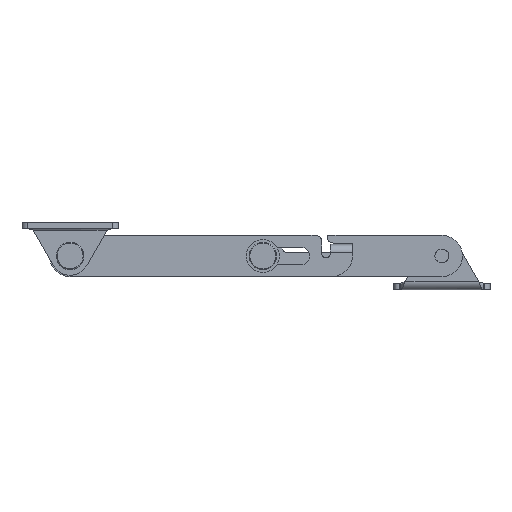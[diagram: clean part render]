
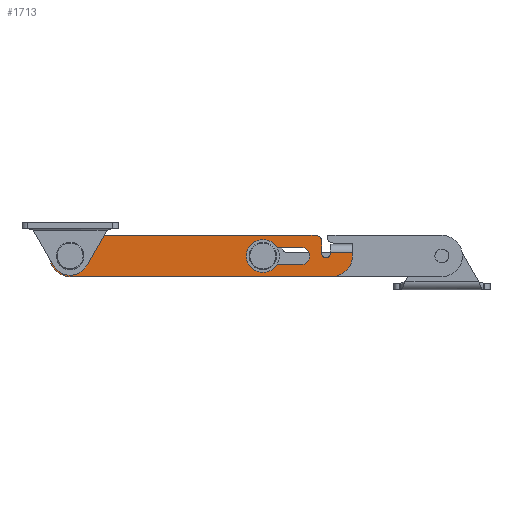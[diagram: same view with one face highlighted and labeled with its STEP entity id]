
A CAD part, top view. The second image highlights one B-rep face of the part: STEP entity #1713.
In plain terms, the highlighted planar face has unit normal (0, 0, 1).
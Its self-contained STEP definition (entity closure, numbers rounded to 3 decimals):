
#32 = EDGE_CURVE ( 'NONE', #183, #2941, #964, .T. ) ;
#132 = DIRECTION ( 'NONE',  ( 0., 1., 0. ) ) ;
#168 = CARTESIAN_POINT ( 'NONE',  ( 0., -68.5, 2.5 ) ) ;
#175 = FACE_BOUND ( 'NONE', #1126, .T. ) ;
#182 = DIRECTION ( 'NONE',  ( 0., 0., 1. ) ) ;
#183 = VERTEX_POINT ( 'NONE', #2148 ) ;
#193 = CARTESIAN_POINT ( 'NONE',  ( 0., -102.5, 2.5 ) ) ;
#214 = EDGE_CURVE ( 'NONE', #1238, #1400, #1574, .T. ) ;
#220 = DIRECTION ( 'NONE',  ( 0., 0., 1. ) ) ;
#235 = EDGE_CURVE ( 'NONE', #1616, #3536, #3561, .T. ) ;
#266 = AXIS2_PLACEMENT_3D ( 'NONE', #168, #1497, #1304 ) ;
#276 = CARTESIAN_POINT ( 'NONE',  ( -3.1, -84., 2.5 ) ) ;
#303 = CARTESIAN_POINT ( 'NONE',  ( 2.5, 0., 2.5 ) ) ;
#311 = LINE ( 'NONE', #2496, #3186 ) ;
#326 = ORIENTED_EDGE ( 'NONE', *, *, #2132, .F. ) ;
#339 = LINE ( 'NONE', #1743, #1366 ) ;
#344 = ORIENTED_EDGE ( 'NONE', *, *, #2305, .T. ) ;
#348 = AXIS2_PLACEMENT_3D ( 'NONE', #990, #712, #3150 ) ;
#364 = CARTESIAN_POINT ( 'NONE',  ( -0.588, -92.9, 2.5 ) ) ;
#420 = DIRECTION ( 'NONE',  ( 0., -1., 0. ) ) ;
#433 = DIRECTION ( 'NONE',  ( -1., 0., 0. ) ) ;
#437 = CIRCLE ( 'NONE', #1017, 3.1 ) ;
#476 = ORIENTED_EDGE ( 'NONE', *, *, #870, .T. ) ;
#488 = VERTEX_POINT ( 'NONE', #3477 ) ;
#528 = EDGE_CURVE ( 'NONE', #1400, #1238, #3485, .T. ) ;
#550 = VECTOR ( 'NONE', #132, 1000. ) ;
#566 = ORIENTED_EDGE ( 'NONE', *, *, #3249, .T. ) ;
#597 = DIRECTION ( 'NONE',  ( 0., 1., 0. ) ) ;
#628 = CARTESIAN_POINT ( 'NONE',  ( -2.5, 0., 2.5 ) ) ;
#694 = VECTOR ( 'NONE', #420, 1000. ) ;
#712 = DIRECTION ( 'NONE',  ( 0., 0., 1. ) ) ;
#759 = AXIS2_PLACEMENT_3D ( 'NONE', #3508, #220, #3214 ) ;
#776 = EDGE_LOOP ( 'NONE', ( #1491, #566, #3364, #1874, #344, #2003, #2078, #476, #2174, #1722, #2513 ) ) ;
#792 = VECTOR ( 'NONE', #1602, 1000. ) ;
#801 = AXIS2_PLACEMENT_3D ( 'NONE', #1047, #1110, #2211 ) ;
#815 = CARTESIAN_POINT ( 'NONE',  ( 1.012, -92.9, 2.5 ) ) ;
#870 = EDGE_CURVE ( 'NONE', #1683, #488, #311, .T. ) ;
#910 = CARTESIAN_POINT ( 'NONE',  ( -3.1, -84., 2.5 ) ) ;
#912 = VERTEX_POINT ( 'NONE', #2931 ) ;
#914 = CARTESIAN_POINT ( 'NONE',  ( 3.1, -68.5, 2.5 ) ) ;
#929 = VERTEX_POINT ( 'NONE', #364 ) ;
#948 = CARTESIAN_POINT ( 'NONE',  ( 1.002, -94.5, 2.5 ) ) ;
#959 = CIRCLE ( 'NONE', #2826, 1.6 ) ;
#964 = LINE ( 'NONE', #910, #694 ) ;
#990 = CARTESIAN_POINT ( 'NONE',  ( 0., 0., 2.5 ) ) ;
#1017 = AXIS2_PLACEMENT_3D ( 'NONE', #3194, #2685, #1309 ) ;
#1022 = AXIS2_PLACEMENT_3D ( 'NONE', #1091, #3542, #1597 ) ;
#1032 = VECTOR ( 'NONE', #1568, 1000. ) ;
#1047 = CARTESIAN_POINT ( 'NONE',  ( 0., 0., 2.5 ) ) ;
#1070 = VERTEX_POINT ( 'NONE', #3471 ) ;
#1091 = CARTESIAN_POINT ( 'NONE',  ( 0., -95., 2.5 ) ) ;
#1110 = DIRECTION ( 'NONE',  ( 0., 0., 1. ) ) ;
#1126 = EDGE_LOOP ( 'NONE', ( #1578, #2407 ) ) ;
#1171 = VERTEX_POINT ( 'NONE', #3316 ) ;
#1224 = EDGE_CURVE ( 'NONE', #2797, #1616, #3001, .T. ) ;
#1235 = LINE ( 'NONE', #1274, #550 ) ;
#1238 = VERTEX_POINT ( 'NONE', #303 ) ;
#1250 = CIRCLE ( 'NONE', #266, 3.1 ) ;
#1269 = EDGE_CURVE ( 'NONE', #488, #1171, #2364, .T. ) ;
#1274 = CARTESIAN_POINT ( 'NONE',  ( 3.1, -84., 2.5 ) ) ;
#1289 = ORIENTED_EDGE ( 'NONE', *, *, #32, .F. ) ;
#1304 = DIRECTION ( 'NONE',  ( 1., 0., 0. ) ) ;
#1306 = CARTESIAN_POINT ( 'NONE',  ( 1.202, -102.5, 2.5 ) ) ;
#1309 = DIRECTION ( 'NONE',  ( 1., 0., 0. ) ) ;
#1313 = CARTESIAN_POINT ( 'NONE',  ( 1.002, -91.3, 2.5 ) ) ;
#1330 = CARTESIAN_POINT ( 'NONE',  ( 1.202, -95., 2.5 ) ) ;
#1366 = VECTOR ( 'NONE', #3137, 1000. ) ;
#1400 = VERTEX_POINT ( 'NONE', #628 ) ;
#1409 = EDGE_CURVE ( 'NONE', #1171, #2797, #339, .T. ) ;
#1416 = LINE ( 'NONE', #3358, #3523 ) ;
#1480 = CARTESIAN_POINT ( 'NONE',  ( 1.002, -91.3, 2.5 ) ) ;
#1491 = ORIENTED_EDGE ( 'NONE', *, *, #235, .T. ) ;
#1497 = DIRECTION ( 'NONE',  ( 0., 0., 1. ) ) ;
#1538 = DIRECTION ( 'NONE',  ( 0., 0., 1. ) ) ;
#1559 = EDGE_CURVE ( 'NONE', #2941, #2810, #437, .T. ) ;
#1568 = DIRECTION ( 'NONE',  ( 0., 1., 0. ) ) ;
#1572 = EDGE_CURVE ( 'NONE', #912, #1683, #1885, .T. ) ;
#1574 = CIRCLE ( 'NONE', #759, 2.5 ) ;
#1578 = ORIENTED_EDGE ( 'NONE', *, *, #214, .F. ) ;
#1597 = DIRECTION ( 'NONE',  ( -1., 0., 0. ) ) ;
#1602 = DIRECTION ( 'NONE',  ( 1., 0., 0. ) ) ;
#1608 = CIRCLE ( 'NONE', #3400, 1.6 ) ;
#1616 = VERTEX_POINT ( 'NONE', #193 ) ;
#1626 = EDGE_CURVE ( 'NONE', #2810, #2390, #1235, .T. ) ;
#1659 = DIRECTION ( 'NONE',  ( -1., 0., 0. ) ) ;
#1683 = VERTEX_POINT ( 'NONE', #2961 ) ;
#1713 = ADVANCED_FACE ( 'NONE', ( #2668, #175, #2396 ), #3503, .F. ) ;
#1722 = ORIENTED_EDGE ( 'NONE', *, *, #1409, .T. ) ;
#1743 = CARTESIAN_POINT ( 'NONE',  ( -7.5, 0., 2.5 ) ) ;
#1798 = CARTESIAN_POINT ( 'NONE',  ( 5.5, -89.3, 2.5 ) ) ;
#1856 = CARTESIAN_POINT ( 'NONE',  ( 7.502, -102.5, 2.5 ) ) ;
#1859 = CARTESIAN_POINT ( 'NONE',  ( -7.5, -95., 2.5 ) ) ;
#1874 = ORIENTED_EDGE ( 'NONE', *, *, #3369, .T. ) ;
#1885 = CIRCLE ( 'NONE', #2880, 2. ) ;
#1899 = CARTESIAN_POINT ( 'NONE',  ( 1.012, -92.9, 2.5 ) ) ;
#1942 = VERTEX_POINT ( 'NONE', #1480 ) ;
#1947 = ORIENTED_EDGE ( 'NONE', *, *, #1559, .F. ) ;
#2003 = ORIENTED_EDGE ( 'NONE', *, *, #3171, .T. ) ;
#2025 = VECTOR ( 'NONE', #2421, 1000. ) ;
#2071 = ORIENTED_EDGE ( 'NONE', *, *, #1626, .F. ) ;
#2078 = ORIENTED_EDGE ( 'NONE', *, *, #1572, .T. ) ;
#2132 = EDGE_CURVE ( 'NONE', #2390, #183, #1250, .T. ) ;
#2142 = AXIS2_PLACEMENT_3D ( 'NONE', #2674, #182, #2801 ) ;
#2146 = LINE ( 'NONE', #1330, #1032 ) ;
#2148 = CARTESIAN_POINT ( 'NONE',  ( -3.1, -68.5, 2.5 ) ) ;
#2157 = DIRECTION ( 'NONE',  ( 0., 0., -1. ) ) ;
#2174 = ORIENTED_EDGE ( 'NONE', *, *, #1269, .T. ) ;
#2211 = DIRECTION ( 'NONE',  ( 1., 0., 0. ) ) ;
#2305 = EDGE_CURVE ( 'NONE', #929, #1942, #959, .T. ) ;
#2364 = CIRCLE ( 'NONE', #801, 7.5 ) ;
#2390 = VERTEX_POINT ( 'NONE', #914 ) ;
#2396 = FACE_OUTER_BOUND ( 'NONE', #776, .T. ) ;
#2407 = ORIENTED_EDGE ( 'NONE', *, *, #528, .F. ) ;
#2421 = DIRECTION ( 'NONE',  ( 1., 0., 0. ) ) ;
#2424 = CARTESIAN_POINT ( 'NONE',  ( 3.1, -84., 2.5 ) ) ;
#2496 = CARTESIAN_POINT ( 'NONE',  ( 7.5, -89.3, 2.5 ) ) ;
#2513 = ORIENTED_EDGE ( 'NONE', *, *, #1224, .T. ) ;
#2560 = DIRECTION ( 'NONE',  ( 0., 0., -1. ) ) ;
#2658 = VERTEX_POINT ( 'NONE', #948 ) ;
#2668 = FACE_BOUND ( 'NONE', #2978, .T. ) ;
#2674 = CARTESIAN_POINT ( 'NONE',  ( 0., -95., 2.5 ) ) ;
#2685 = DIRECTION ( 'NONE',  ( 0., 0., 1. ) ) ;
#2797 = VERTEX_POINT ( 'NONE', #1859 ) ;
#2801 = DIRECTION ( 'NONE',  ( -1., 0., 0. ) ) ;
#2810 = VERTEX_POINT ( 'NONE', #2424 ) ;
#2826 = AXIS2_PLACEMENT_3D ( 'NONE', #1899, #2157, #3553 ) ;
#2880 = AXIS2_PLACEMENT_3D ( 'NONE', #1798, #1538, #433 ) ;
#2913 = EDGE_CURVE ( 'NONE', #1070, #2658, #1416, .T. ) ;
#2931 = CARTESIAN_POINT ( 'NONE',  ( 5.5, -91.3, 2.5 ) ) ;
#2941 = VERTEX_POINT ( 'NONE', #276 ) ;
#2961 = CARTESIAN_POINT ( 'NONE',  ( 7.5, -89.3, 2.5 ) ) ;
#2978 = EDGE_LOOP ( 'NONE', ( #2071, #1947, #1289, #326 ) ) ;
#3001 = CIRCLE ( 'NONE', #2142, 7.5 ) ;
#3010 = LINE ( 'NONE', #1313, #792 ) ;
#3047 = DIRECTION ( 'NONE',  ( 1., 0., 0. ) ) ;
#3137 = DIRECTION ( 'NONE',  ( 0., -1., 0. ) ) ;
#3150 = DIRECTION ( 'NONE',  ( 1., 0., 0. ) ) ;
#3171 = EDGE_CURVE ( 'NONE', #1942, #912, #3010, .T. ) ;
#3186 = VECTOR ( 'NONE', #597, 1000. ) ;
#3194 = CARTESIAN_POINT ( 'NONE',  ( 0., -84., 2.5 ) ) ;
#3214 = DIRECTION ( 'NONE',  ( 1., 0., 0. ) ) ;
#3249 = EDGE_CURVE ( 'NONE', #3536, #1070, #2146, .T. ) ;
#3316 = CARTESIAN_POINT ( 'NONE',  ( -7.5, 0., 2.5 ) ) ;
#3358 = CARTESIAN_POINT ( 'NONE',  ( 1.002, -94.5, 2.5 ) ) ;
#3364 = ORIENTED_EDGE ( 'NONE', *, *, #2913, .T. ) ;
#3369 = EDGE_CURVE ( 'NONE', #2658, #929, #1608, .T. ) ;
#3400 = AXIS2_PLACEMENT_3D ( 'NONE', #815, #2560, #3047 ) ;
#3471 = CARTESIAN_POINT ( 'NONE',  ( 1.202, -94.5, 2.5 ) ) ;
#3477 = CARTESIAN_POINT ( 'NONE',  ( 7.5, 0., 2.5 ) ) ;
#3485 = CIRCLE ( 'NONE', #348, 2.5 ) ;
#3503 = PLANE ( 'NONE',  #1022 ) ;
#3508 = CARTESIAN_POINT ( 'NONE',  ( 0., 0., 2.5 ) ) ;
#3523 = VECTOR ( 'NONE', #1659, 1000. ) ;
#3536 = VERTEX_POINT ( 'NONE', #1306 ) ;
#3542 = DIRECTION ( 'NONE',  ( 0., 0., -1. ) ) ;
#3553 = DIRECTION ( 'NONE',  ( 1., 0., 0. ) ) ;
#3561 = LINE ( 'NONE', #1856, #2025 ) ;
